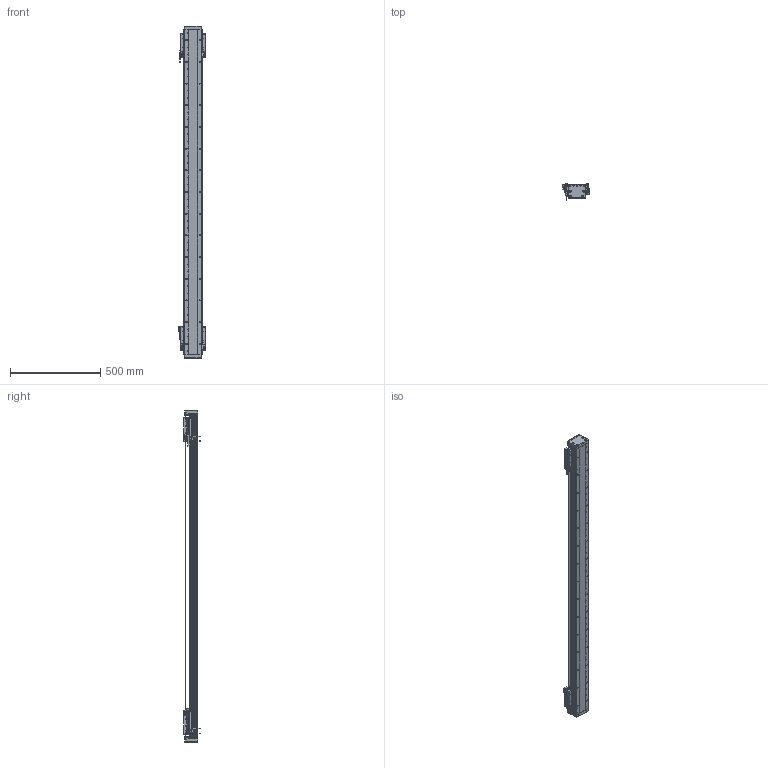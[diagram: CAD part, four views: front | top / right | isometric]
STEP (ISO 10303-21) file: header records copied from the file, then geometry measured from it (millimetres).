
FILE_DESCRIPTION (( 'STEP AP203' ), '1' );
FILE_NAME ('DA-B95-2-B15-T1460-C010-0.2 直线电机.STEP', '2023-05-06T06:31:28', ( '微软用户' ), ( '微软中国' ), 'SwSTEP 2.0', 'SolidWorks 2019', '' );
FILE_SCHEMA (( 'CONFIG_CONTROL_DESIGN' ));
Length unit declared in the file: millimetre
Products named in the file (34): 复件 DA95-B15-YB-A-00 压板A^66245-BU95-V 滚珠滑台; 复件 DA95-DK-00 挡块^66245-BU95-V 滚珠滑台; 葩璃 DA95-B15-DP-A-00 菜えA^66245-BU95-V 幗紩賑怢; 葩璃 BKMA01-W060-TRL^DA-A95-B15-T-C010-0.2-N 眻盄萇儂; PM-T45 光电开关^DA-A95-B15-T-C010-0.2-N 直线电机; 66245-BU95-V 幗紩賑怢; 复件 六角薄螺母 M3^DA-A95-B15-T-C010-0.2-N 直线电机_GB_FASTENER_NUT_STNAB M3-C; B15 XD-U-02L ｴﾅﾕ､ｳﾟ^DA-A95-B15-T-C010-0.2-N ﾖｱﾏﾟｵ扈銈XD-U-02L; DA-A95-GYP-00 光电感应片^DA-A95-B15-T-C010-0.2-N 直线电机; 66245-BU95-V-00 珨极趙賑雄怢啣; DA95-HXJ-00 缓冲橡胶^DA-A95-B15-T-C010-0.2-N 直线电机; 复件 复件 18252-0001-003-00 钢带拉块^DA-A95-B15-T-C010-0.2-N 直线电机; IU-BU95-L 菁釱絳寢; 复件 DA95-B15-YB-B-00 压板B^66245-BU95-V 滚珠滑台; 复件 DA95-B15 钢带盖板^DA-A95-B15-T-C010-0.2-N 直线电机; 复件 DA95-DB-00  挡板^66245-BU95-V 滚珠滑台; 复件 DKW-HXJ-JY-00 缓冲橡胶^DA-A95-B15-T-C010-0.2-N 直线电机; 复件 DKW-GYP-ZJ-00 中间光电感应片^DA-A95-B15-T-C010-0.2-N 直线电机; DA-B95-2-B15-T1460-C010-0.2 眻盄萇儂; 复件 复件 18252-0001-004-00 钢带端盖^DA-A95-B15-T-C010-0.2-N 直线电机; 复件 DA95-MFP-01 密封片^66245-BU95-V 滚珠滑台; 葩璃 DA95-GT-T-00^IU-BU95-L 菁釱絳寢_DA95; 复件 DA95-HK-GT-00 滑块钢轨^66245-BU95-V-00 一体化滑动台板; 复件 复件 18252-0001-002-00 钢带垫块^DA-A95-B15-T-C010-0.2-N 直线电机; 复件 纯铜油杯 6x6mm^66245-BU95-V 滚珠滑台; 葩璃 PM-Y45^DA-A95-B15-T-C010-0.2-N 眻盄萇儂; 复件 66245-BU95-HT-V-01 滑动台板^66245-BU95-V-00 一体化滑动台板; 葩璃 DA95-B15-DP--B-00 菜えB^66245-BU95-V 幗紩賑怢; 葩璃 BKM015-W060-C1-TP-DA-0.2^DA-A95-B15-T-C010-0.2-N 眻盄萇儂; IU-BU95-L-00 菁釱_L1800; LMDK-2-R001-V5-L02-C1-F00，0.2M 读数头^DA-A95-B15-T-C010-0.2-N 直线电机_DMA-010-0.2; 复件 DKW-KGZ-ZJ-00 中间光电开关支架^DA-A95-B15-T-C010-0.2-N 直线电机
Assembly tree (80 placements, depth 4):
  DA-B95-2-B15-T1460-C010-0.2 眻盄萇儂
    IU-BU95-L 菁釱絳寢
      IU-BU95-L-00 菁釱_L1800
      葩璃 DA95-GT-T-00^IU-BU95-L 菁釱絳寢_DA95  x2
    66245-BU95-V 幗紩賑怢
      66245-BU95-V-00 珨极趙賑雄怢啣
        复件 66245-BU95-HT-V-01 滑动台板^66245-BU95-V-00 一体化滑动台板
        复件 DA95-HK-GT-00 滑块钢轨^66245-BU95-V-00 一体化滑动台板  x2
      葩璃 DA95-B15-DP-A-00 菜えA^66245-BU95-V 幗紩賑怢
      复件 DA95-B15-YB-A-00 压板A^66245-BU95-V 滚珠滑台
      复件 DA95-B15-YB-B-00 压板B^66245-BU95-V 滚珠滑台
      复件 DA95-DB-00  挡板^66245-BU95-V 滚珠滑台  x4
      复件 DA95-DK-00 挡块^66245-BU95-V 滚珠滑台  x2
      复件 DA95-MFP-01 密封片^66245-BU95-V 滚珠滑台  x4
      复件 纯铜油杯 6x6mm^66245-BU95-V 滚珠滑台  x2
      葩璃 DA95-B15-DP--B-00 菜えB^66245-BU95-V 幗紩賑怢
    66245-BU95-V 幗紩賑怢
      66245-BU95-V-00 珨极趙賑雄怢啣
        复件 66245-BU95-HT-V-01 滑动台板^66245-BU95-V-00 一体化滑动台板
        复件 DA95-HK-GT-00 滑块钢轨^66245-BU95-V-00 一体化滑动台板  x2
      葩璃 DA95-B15-DP-A-00 菜えA^66245-BU95-V 幗紩賑怢
      复件 DA95-B15-YB-A-00 压板A^66245-BU95-V 滚珠滑台
      复件 DA95-B15-YB-B-00 压板B^66245-BU95-V 滚珠滑台
      复件 DA95-DB-00  挡板^66245-BU95-V 滚珠滑台  x4
      复件 DA95-DK-00 挡块^66245-BU95-V 滚珠滑台  x2
      复件 DA95-MFP-01 密封片^66245-BU95-V 滚珠滑台  x4
      复件 纯铜油杯 6x6mm^66245-BU95-V 滚珠滑台  x2
      葩璃 DA95-B15-DP--B-00 菜えB^66245-BU95-V 幗紩賑怢
    DA-A95-GYP-00 光电感应片^DA-A95-B15-T-C010-0.2-N 直线电机  x2
    LMDK-2-R001-V5-L02-C1-F00，0.2M 读数头^DA-A95-B15-T-C010-0.2-N 直线电机_DMA-010-0.2  x2
    复件 DKW-KGZ-ZJ-00 中间光电开关支架^DA-A95-B15-T-C010-0.2-N 直线电机
    葩璃 PM-Y45^DA-A95-B15-T-C010-0.2-N 眻盄萇儂
    复件 DKW-GYP-ZJ-00 中间光电感应片^DA-A95-B15-T-C010-0.2-N 直线电机
    葩璃 BKM015-W060-C1-TP-DA-0.2^DA-A95-B15-T-C010-0.2-N 眻盄萇儂  x2
    复件 DKW-HXJ-JY-00 缓冲橡胶^DA-A95-B15-T-C010-0.2-N 直线电机  x2
    PM-T45 光电开关^DA-A95-B15-T-C010-0.2-N 直线电机  x4
    B15 XD-U-02L ｴﾅﾕ､ｳﾟ^DA-A95-B15-T-C010-0.2-N ﾖｱﾏﾟｵ扈銈XD-U-02L
    复件 复件 18252-0001-003-00 钢带拉块^DA-A95-B15-T-C010-0.2-N 直线电机  x2
    复件 复件 18252-0001-002-00 钢带垫块^DA-A95-B15-T-C010-0.2-N 直线电机  x2
    复件 复件 18252-0001-004-00 钢带端盖^DA-A95-B15-T-C010-0.2-N 直线电机  x2
    复件 DA95-B15 钢带盖板^DA-A95-B15-T-C010-0.2-N 直线电机
    DA95-HXJ-00 缓冲橡胶^DA-A95-B15-T-C010-0.2-N 直线电机  x4
    葩璃 BKMA01-W060-TRL^DA-A95-B15-T-C010-0.2-N 眻盄萇儂
    复件 六角薄螺母 M3^DA-A95-B15-T-C010-0.2-N 直线电机_GB_FASTENER_NUT_STNAB M3-C  x6
Bounding box: 145.4 x 90.2 x 1836 mm (x, y, z)
Volume: 6328839.9 mm3; surface area: 2064327.1 mm2
Topology: 75 solids, 93 shells, 3892 faces, 10684 edges, 6735 vertices
Faces by surface type: cylinder 1917, plane 1443, cone 464, torus 64, sphere 4
Entity records: 86208 total; most frequent: CARTESIAN_POINT 21118, ORIENTED_EDGE 12726, DIRECTION 12628, EDGE_CURVE 6363, AXIS2_PLACEMENT_3D 4773, VERTEX_POINT 4137, VECTOR 3082, LINE 3082
